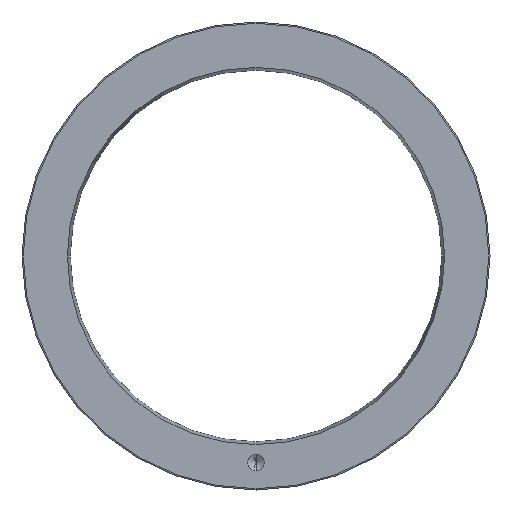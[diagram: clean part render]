
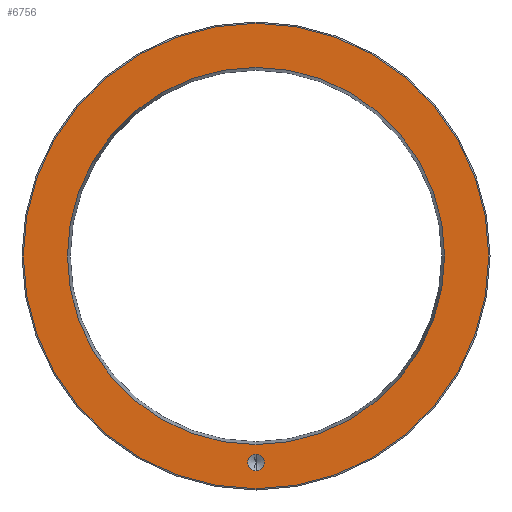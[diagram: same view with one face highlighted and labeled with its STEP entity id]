
A CAD part, front view. The second image highlights one B-rep face of the part: STEP entity #6756.
In plain terms, the highlighted planar face has unit normal (0, -1, 0).
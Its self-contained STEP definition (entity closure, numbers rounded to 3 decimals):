
#7 = CARTESIAN_POINT ( 'NONE',  ( 0., 0., 28.2 ) ) ;
#794 = EDGE_CURVE ( 'NONE', #19057, #7048, #28377, .T. ) ;
#1021 = FACE_BOUND ( 'NONE', #24317, .T. ) ;
#2378 = VERTEX_POINT ( 'NONE', #7 ) ;
#2387 = CARTESIAN_POINT ( 'NONE',  ( 0., 0., -22.853 ) ) ;
#3375 = AXIS2_PLACEMENT_3D ( 'NONE', #18335, #20504, #22671 ) ;
#3779 = ORIENTED_EDGE ( 'NONE', *, *, #15315, .F. ) ;
#4099 = DIRECTION ( 'NONE',  ( 0., -1., 0. ) ) ;
#5303 = EDGE_LOOP ( 'NONE', ( #15533, #18272 ) ) ;
#6040 = EDGE_CURVE ( 'NONE', #16780, #15923, #24496, .T. ) ;
#6403 = CARTESIAN_POINT ( 'NONE',  ( 0., 0., -28.2 ) ) ;
#6756 = ADVANCED_FACE ( 'NONE', ( #1021, #25733, #10262 ), #20666, .T. ) ;
#6920 = ORIENTED_EDGE ( 'NONE', *, *, #6040, .F. ) ;
#7048 = VERTEX_POINT ( 'NONE', #18853 ) ;
#7684 = CIRCLE ( 'NONE', #17869, 28.2 ) ;
#8063 = DIRECTION ( 'NONE',  ( 0., -1., 0. ) ) ;
#10262 = FACE_OUTER_BOUND ( 'NONE', #5303, .T. ) ;
#10803 = CARTESIAN_POINT ( 'NONE',  ( 0., 0., -25. ) ) ;
#11298 = EDGE_CURVE ( 'NONE', #17118, #2378, #14446, .T. ) ;
#11937 = CARTESIAN_POINT ( 'NONE',  ( 0., 0., -26. ) ) ;
#12082 = DIRECTION ( 'NONE',  ( 0., 0., -1. ) ) ;
#12145 = DIRECTION ( 'NONE',  ( 0., -1., 0. ) ) ;
#12917 = DIRECTION ( 'NONE',  ( 0., 0., -1. ) ) ;
#13172 = AXIS2_PLACEMENT_3D ( 'NONE', #28044, #17512, #19674 ) ;
#13491 = EDGE_CURVE ( 'NONE', #7048, #19057, #21016, .T. ) ;
#14446 = CIRCLE ( 'NONE', #3375, 28.2 ) ;
#15033 = EDGE_CURVE ( 'NONE', #2378, #17118, #7684, .T. ) ;
#15315 = EDGE_CURVE ( 'NONE', #15923, #16780, #21561, .T. ) ;
#15523 = DIRECTION ( 'NONE',  ( 0., -1., 0. ) ) ;
#15533 = ORIENTED_EDGE ( 'NONE', *, *, #11298, .T. ) ;
#15923 = VERTEX_POINT ( 'NONE', #23056 ) ;
#16780 = VERTEX_POINT ( 'NONE', #2387 ) ;
#17118 = VERTEX_POINT ( 'NONE', #6403 ) ;
#17450 = DIRECTION ( 'NONE',  ( 0., 0., -1. ) ) ;
#17512 = DIRECTION ( 'NONE',  ( 0., -1., 0. ) ) ;
#17673 = ORIENTED_EDGE ( 'NONE', *, *, #13491, .F. ) ;
#17869 = AXIS2_PLACEMENT_3D ( 'NONE', #24771, #15523, #24489 ) ;
#18272 = ORIENTED_EDGE ( 'NONE', *, *, #15033, .T. ) ;
#18302 = CARTESIAN_POINT ( 'NONE',  ( 0., 0., 0. ) ) ;
#18335 = CARTESIAN_POINT ( 'NONE',  ( 0., 0., 0. ) ) ;
#18853 = CARTESIAN_POINT ( 'NONE',  ( 0., 0., -24. ) ) ;
#19057 = VERTEX_POINT ( 'NONE', #11937 ) ;
#19189 = AXIS2_PLACEMENT_3D ( 'NONE', #10803, #8063, #17450 ) ;
#19432 = AXIS2_PLACEMENT_3D ( 'NONE', #25587, #12145, #20956 ) ;
#19674 = DIRECTION ( 'NONE',  ( 0., 0., -1. ) ) ;
#20302 = ORIENTED_EDGE ( 'NONE', *, *, #794, .F. ) ;
#20504 = DIRECTION ( 'NONE',  ( 0., -1., 0. ) ) ;
#20666 = PLANE ( 'NONE',  #19432 ) ;
#20956 = DIRECTION ( 'NONE',  ( 0., 0., -1. ) ) ;
#21016 = CIRCLE ( 'NONE', #19189, 1. ) ;
#21089 = AXIS2_PLACEMENT_3D ( 'NONE', #23886, #4099, #12917 ) ;
#21561 = CIRCLE ( 'NONE', #21089, 22.853 ) ;
#22671 = DIRECTION ( 'NONE',  ( 0., 0., -1. ) ) ;
#23056 = CARTESIAN_POINT ( 'NONE',  ( 0., 0., 22.853 ) ) ;
#23886 = CARTESIAN_POINT ( 'NONE',  ( 0., 0., 0. ) ) ;
#24027 = AXIS2_PLACEMENT_3D ( 'NONE', #18302, #27112, #12082 ) ;
#24317 = EDGE_LOOP ( 'NONE', ( #6920, #3779 ) ) ;
#24489 = DIRECTION ( 'NONE',  ( 0., 0., -1. ) ) ;
#24496 = CIRCLE ( 'NONE', #24027, 22.853 ) ;
#24771 = CARTESIAN_POINT ( 'NONE',  ( 0., 0., 0. ) ) ;
#25587 = CARTESIAN_POINT ( 'NONE',  ( 28.4, 0., 0. ) ) ;
#25733 = FACE_BOUND ( 'NONE', #27412, .T. ) ;
#27112 = DIRECTION ( 'NONE',  ( 0., -1., 0. ) ) ;
#27412 = EDGE_LOOP ( 'NONE', ( #20302, #17673 ) ) ;
#28044 = CARTESIAN_POINT ( 'NONE',  ( 0., 0., -25. ) ) ;
#28377 = CIRCLE ( 'NONE', #13172, 1. ) ;
